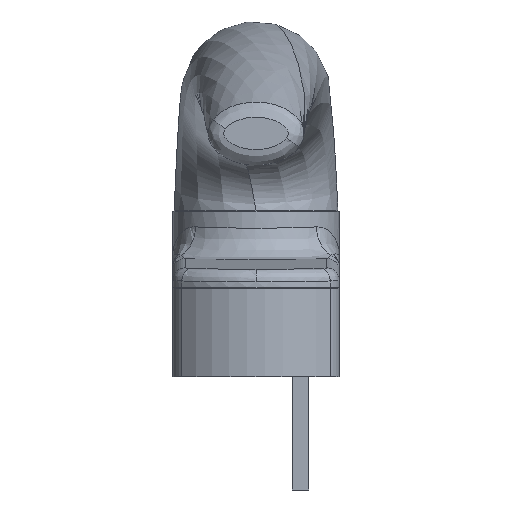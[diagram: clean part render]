
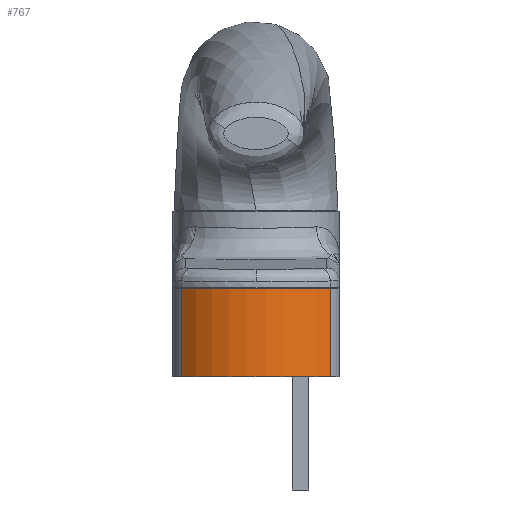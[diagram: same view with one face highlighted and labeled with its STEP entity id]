
A CAD part, front view. The second image highlights one B-rep face of the part: STEP entity #767.
In plain terms, the highlighted cylindrical face has radius 16.755 mm (diameter 33.51 mm), a partial arc.
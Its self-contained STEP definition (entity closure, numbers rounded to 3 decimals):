
#6 = DIRECTION ( 'NONE',  ( -1., 0., 0. ) ) ;
#141 = LINE ( 'NONE', #1493, #5657 ) ;
#293 = CARTESIAN_POINT ( 'NONE',  ( 11.759, -59.18, 14. ) ) ;
#412 = CARTESIAN_POINT ( 'NONE',  ( -11.759, -59.18, 14. ) ) ;
#525 = LINE ( 'NONE', #4846, #4526 ) ;
#749 = DIRECTION ( 'NONE',  ( -1., 0., 0. ) ) ;
#750 = CARTESIAN_POINT ( 'NONE',  ( 0., -47.245, 0. ) ) ;
#767 = ADVANCED_FACE ( 'NONE', ( #817 ), #5639, .T. ) ;
#801 = VERTEX_POINT ( 'NONE', #3782 ) ;
#817 = FACE_OUTER_BOUND ( 'NONE', #1545, .T. ) ;
#1322 = VERTEX_POINT ( 'NONE', #293 ) ;
#1493 = CARTESIAN_POINT ( 'NONE',  ( 11.759, -59.18, 14. ) ) ;
#1545 = EDGE_LOOP ( 'NONE', ( #2013, #4720, #5558, #2386 ) ) ;
#2013 = ORIENTED_EDGE ( 'NONE', *, *, #3957, .F. ) ;
#2054 = DIRECTION ( 'NONE',  ( 0., 0., -1. ) ) ;
#2090 = CARTESIAN_POINT ( 'NONE',  ( 11.759, -59.18, 0. ) ) ;
#2118 = CARTESIAN_POINT ( 'NONE',  ( 0., -47.245, 14. ) ) ;
#2134 = DIRECTION ( 'NONE',  ( 0., 0., -1. ) ) ;
#2365 = VERTEX_POINT ( 'NONE', #412 ) ;
#2386 = ORIENTED_EDGE ( 'NONE', *, *, #3447, .T. ) ;
#2617 = AXIS2_PLACEMENT_3D ( 'NONE', #2118, #2054, #5256 ) ;
#3284 = EDGE_CURVE ( 'NONE', #1322, #2365, #3403, .T. ) ;
#3403 = CIRCLE ( 'NONE', #2617, 16.755 ) ;
#3447 = EDGE_CURVE ( 'NONE', #2365, #801, #525, .T. ) ;
#3782 = CARTESIAN_POINT ( 'NONE',  ( -11.759, -59.18, 0. ) ) ;
#3890 = DIRECTION ( 'NONE',  ( 0., 0., -1. ) ) ;
#3957 = EDGE_CURVE ( 'NONE', #5306, #801, #4694, .T. ) ;
#4301 = EDGE_CURVE ( 'NONE', #5306, #1322, #141, .T. ) ;
#4315 = DIRECTION ( 'NONE',  ( 0., 0., -1. ) ) ;
#4526 = VECTOR ( 'NONE', #2134, 1000. ) ;
#4694 = CIRCLE ( 'NONE', #5538, 16.755 ) ;
#4720 = ORIENTED_EDGE ( 'NONE', *, *, #4301, .T. ) ;
#4846 = CARTESIAN_POINT ( 'NONE',  ( -11.759, -59.18, 14. ) ) ;
#4928 = AXIS2_PLACEMENT_3D ( 'NONE', #5667, #4315, #749 ) ;
#5055 = DIRECTION ( 'NONE',  ( 0., 0., 1. ) ) ;
#5256 = DIRECTION ( 'NONE',  ( -1., 0., 0. ) ) ;
#5306 = VERTEX_POINT ( 'NONE', #2090 ) ;
#5538 = AXIS2_PLACEMENT_3D ( 'NONE', #750, #3890, #6 ) ;
#5558 = ORIENTED_EDGE ( 'NONE', *, *, #3284, .T. ) ;
#5639 = CYLINDRICAL_SURFACE ( 'NONE', #4928, 16.755 ) ;
#5657 = VECTOR ( 'NONE', #5055, 1000. ) ;
#5667 = CARTESIAN_POINT ( 'NONE',  ( 0., -47.245, 14. ) ) ;
